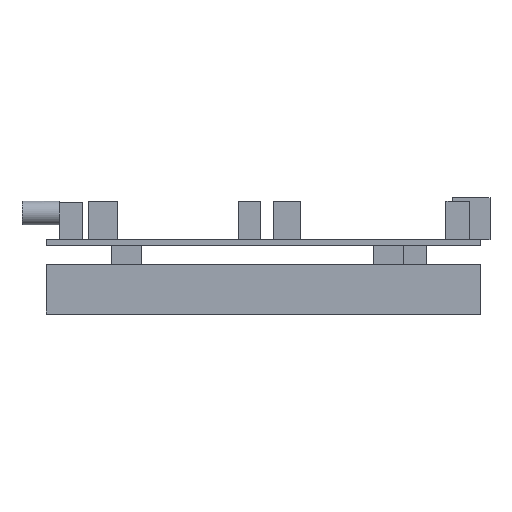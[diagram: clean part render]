
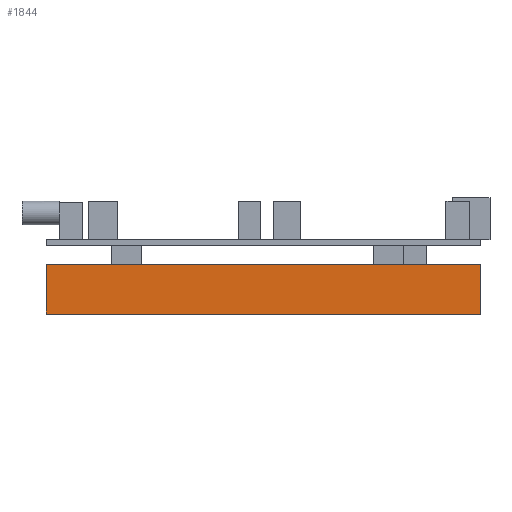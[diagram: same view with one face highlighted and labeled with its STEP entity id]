
A CAD part, top view. The second image highlights one B-rep face of the part: STEP entity #1844.
In plain terms, the highlighted planar face has unit normal (0, 0, 1).
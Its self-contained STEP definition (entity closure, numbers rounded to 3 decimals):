
#16 = EDGE_LOOP ( 'NONE', ( #2395, #4413, #2431, #338 ) ) ;
#49 = LINE ( 'NONE', #4746, #2925 ) ;
#152 = PLANE ( 'NONE',  #5351 ) ;
#228 = DIRECTION ( 'NONE',  ( -1., 0., 0. ) ) ;
#338 = ORIENTED_EDGE ( 'NONE', *, *, #2332, .F. ) ;
#1044 = VERTEX_POINT ( 'NONE', #3751 ) ;
#1091 = VERTEX_POINT ( 'NONE', #3209 ) ;
#1308 = DIRECTION ( 'NONE',  ( -1., 0., 0. ) ) ;
#1564 = VECTOR ( 'NONE', #5655, 1000. ) ;
#1573 = LINE ( 'NONE', #4221, #2915 ) ;
#1671 = CARTESIAN_POINT ( 'NONE',  ( 0., 5., 0. ) ) ;
#1844 = ADVANCED_FACE ( 'NONE', ( #6297 ), #152, .F. ) ;
#1876 = DIRECTION ( 'NONE',  ( 0., -1., 0. ) ) ;
#1898 = EDGE_CURVE ( 'NONE', #1962, #5535, #49, .T. ) ;
#1962 = VERTEX_POINT ( 'NONE', #4915 ) ;
#2332 = EDGE_CURVE ( 'NONE', #1044, #1091, #1573, .T. ) ;
#2395 = ORIENTED_EDGE ( 'NONE', *, *, #6475, .F. ) ;
#2431 = ORIENTED_EDGE ( 'NONE', *, *, #4726, .F. ) ;
#2915 = VECTOR ( 'NONE', #228, 1000. ) ;
#2925 = VECTOR ( 'NONE', #7008, 1000. ) ;
#3209 = CARTESIAN_POINT ( 'NONE',  ( 0., 0., 0. ) ) ;
#3751 = CARTESIAN_POINT ( 'NONE',  ( 114., 0., 0. ) ) ;
#4221 = CARTESIAN_POINT ( 'NONE',  ( 0., 0., 0. ) ) ;
#4413 = ORIENTED_EDGE ( 'NONE', *, *, #1898, .F. ) ;
#4723 = DIRECTION ( 'NONE',  ( 0., 0., -1. ) ) ;
#4726 = EDGE_CURVE ( 'NONE', #1091, #1962, #7255, .T. ) ;
#4746 = CARTESIAN_POINT ( 'NONE',  ( 0., 13., 0. ) ) ;
#4915 = CARTESIAN_POINT ( 'NONE',  ( 0., 13., 0. ) ) ;
#5010 = VECTOR ( 'NONE', #1876, 1000. ) ;
#5192 = LINE ( 'NONE', #5857, #5010 ) ;
#5270 = CARTESIAN_POINT ( 'NONE',  ( 0., 5., 0. ) ) ;
#5351 = AXIS2_PLACEMENT_3D ( 'NONE', #5270, #4723, #1308 ) ;
#5535 = VERTEX_POINT ( 'NONE', #6631 ) ;
#5655 = DIRECTION ( 'NONE',  ( 0., 1., 0. ) ) ;
#5857 = CARTESIAN_POINT ( 'NONE',  ( 114., 5., 0. ) ) ;
#6297 = FACE_OUTER_BOUND ( 'NONE', #16, .T. ) ;
#6475 = EDGE_CURVE ( 'NONE', #5535, #1044, #5192, .T. ) ;
#6631 = CARTESIAN_POINT ( 'NONE',  ( 114., 13., 0. ) ) ;
#7008 = DIRECTION ( 'NONE',  ( 1., 0., 0. ) ) ;
#7255 = LINE ( 'NONE', #1671, #1564 ) ;
